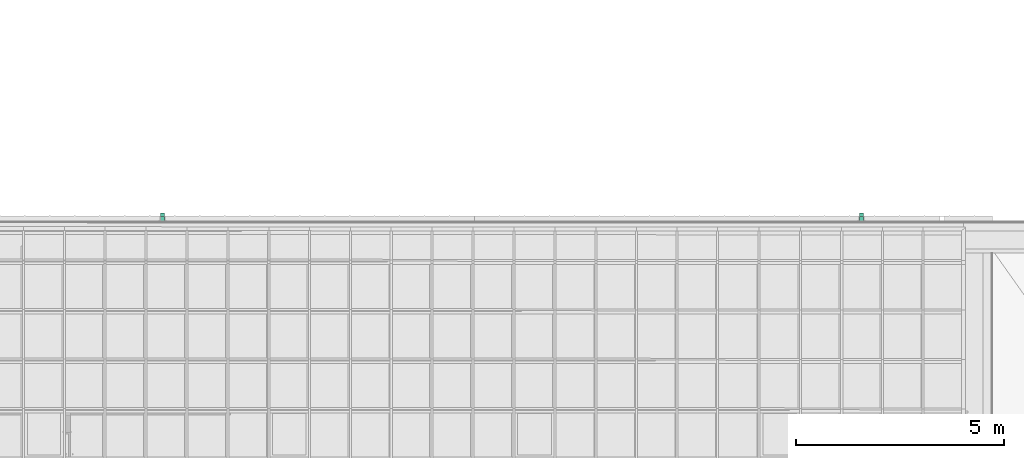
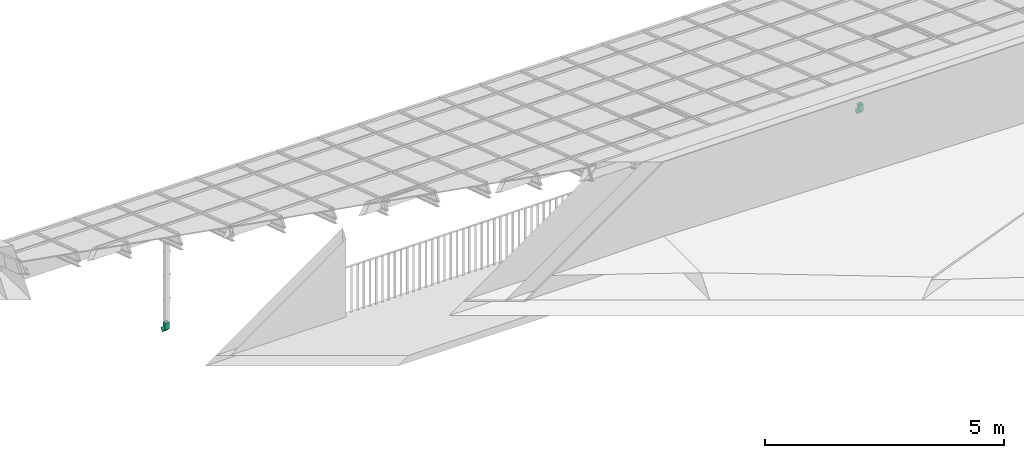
# One storey, part 25 of 47: 2 flow terminals.
"""IFC2X3 building model written with IfcOpenShell, lengths in millimetres."""

import ifcopenshell
import ifcopenshell.guid

model = None  # the IFC model being written
_history = None  # IfcOwnerHistory: only IFC2X3 demands one
_inside = {}  # id of a spatial element -> (the spatial element, [elements in it])
_under = {}  # id of a project, library or spatial element -> (it, [spatial elements below it])
_declared = {}  # id of a project -> (the project, [libraries it declares])
_typed = {}  # id of a type object -> (the type object, [elements of that type])
_made_of = {}  # id of a material, layer set ... -> (it, [elements and type objects made of it])


def new_model(schema):
    """Start an empty IFC model of exactly this schema.

    Asked for "IFC4X3", IfcOpenShell would pick the latest addendum, in which some entities
    have other attributes; the version numbers below select the first issue.
    IFC2X3 requires an IfcOwnerHistory on every rooted entity: one is made here for all.
    """
    global model, _history
    if schema == "IFC4X3":
        model = ifcopenshell.file(schema_version=(4, 3, 0, 0))
    else:
        model = ifcopenshell.file(schema=schema)
    _inside.clear()
    _under.clear()
    _declared.clear()
    _typed.clear()
    _made_of.clear()
    _history = None
    if model.schema == "IFC2X3":
        org = make("IfcOrganization", Name="unknown")
        user = make(
            "IfcPersonAndOrganization",
            ThePerson=make("IfcPerson", FamilyName="unknown"),
            TheOrganization=org,
        )
        app = make(
            "IfcApplication",
            ApplicationDeveloper=org,
            Version="unknown",
            ApplicationFullName="unknown",
            ApplicationIdentifier="unknown",
        )
        _history = make(
            "IfcOwnerHistory",
            OwningUser=user,
            OwningApplication=app,
            ChangeAction="ADDED",
            CreationDate=0,
        )
    return model


def make(cls, **values):
    """One entity of the class cls with the attributes given. An attribute that is None is left unset."""
    return model.create_entity(
        cls, **{name: value for name, value in values.items() if value is not None}
    )


def entity(cls, *values):
    """Any entity or typed value of the class cls, its attributes in the order of the schema. None: left unset."""
    e = model.create_entity(cls)
    for i, value in enumerate(values):
        if value is not None:
            e[i] = value
    return e


def rooted(cls, **values):
    """An entity with a GlobalId (a new one), such as an element, a storey or a relation."""
    return make(cls, GlobalId=ifcopenshell.guid.new(), OwnerHistory=_history, **values)


def si_unit(unit_type, name, prefix=None):
    """IfcSIUnit, for example si_unit("LENGTHUNIT", "METRE", prefix="MILLI")."""
    return make("IfcSIUnit", UnitType=unit_type, Prefix=prefix, Name=name)


def converted_unit(unit_type, name, factor, base, dimensions=None, offset=None):
    """IfcConversionBasedUnit, such as the inch: factor (a typed value) times the base unit."""
    return make(
        "IfcConversionBasedUnit"
        if offset is None
        else "IfcConversionBasedUnitWithOffset",
        ConversionOffset=offset,
        Dimensions=None
        if dimensions is None
        else entity("IfcDimensionalExponents", *dimensions),
        UnitType=unit_type,
        Name=name,
        ConversionFactor=make(
            "IfcMeasureWithUnit", ValueComponent=factor, UnitComponent=base
        ),
    )


def derived_unit(unit_type, elements):
    """IfcDerivedUnit: a product of units, each with its exponent."""
    return make(
        "IfcDerivedUnit",
        Elements=[
            make("IfcDerivedUnitElement", Unit=unit, Exponent=power)
            for unit, power in elements
        ],
        UnitType=unit_type,
    )


def money_unit(currency):
    """IfcMonetaryUnit."""
    return make("IfcMonetaryUnit", Currency=currency)


def assignment(units):
    """IfcUnitAssignment: the units of a project."""
    return None if units is None else make("IfcUnitAssignment", Units=units)


def point(xyz):
    """IfcCartesianPoint."""
    return None if xyz is None else make("IfcCartesianPoint", Coordinates=xyz)


def direction(xyz):
    """IfcDirection."""
    return None if xyz is None else make("IfcDirection", DirectionRatios=xyz)


def frame(location, z_axis=None, x_axis=None):
    """IfcAxis2Placement3D, a coordinate frame: its origin and axes. An axis left out is left unset."""
    return make(
        "IfcAxis2Placement3D",
        Location=point(location),
        Axis=direction(z_axis),
        RefDirection=direction(x_axis),
    )


def origin_with_axes():
    """The frame at (0, 0, 0) with the z axis (0, 0, 1) and the x axis (1, 0, 0) written out."""
    return frame((0.0, 0.0, 0.0), z_axis=(0.0, 0.0, 1.0), x_axis=(1.0, 0.0, 0.0))


def place(relative_to, where):
    """IfcLocalPlacement: puts the frame where relative to a parent placement (None: the world)."""
    return make(
        "IfcLocalPlacement", PlacementRelTo=relative_to, RelativePlacement=where
    )


def context(
    kind, dimensions, precision=None, world=None, true_north=None, identifier=None
):
    """IfcGeometricRepresentationContext, for example the 3D "Model" context."""
    return make(
        "IfcGeometricRepresentationContext",
        ContextIdentifier=identifier,
        ContextType=kind,
        CoordinateSpaceDimension=dimensions,
        Precision=precision,
        WorldCoordinateSystem=world,
        TrueNorth=true_north,
    )


def subcontext(parent, identifier, kind, view, scale=None):
    """IfcGeometricRepresentationSubContext, for example "Body" below "Model"."""
    return make(
        "IfcGeometricRepresentationSubContext",
        ContextIdentifier=identifier,
        ContextType=kind,
        ParentContext=parent,
        TargetScale=scale,
        TargetView=view,
    )


def project(units=None, contexts=None):
    """IfcProject with its units and contexts."""
    return rooted(
        "IfcProject",
        Name="project",
        RepresentationContexts=contexts,
        UnitsInContext=assignment(units),
    )


def spatial(cls, under=None, at=None, **own):
    """A site, building, storey or space (cls), placed at a placement, below another one or the project."""
    s = rooted(cls, ObjectPlacement=at, **own)
    if under is not None:
        _under.setdefault(under.id(), (under, []))[1].append(s)
    return s


def faces_of(points, faces, orient=None, outer=None):
    """IfcFace entities. A face is a list of loops; a loop is a list of indices into points, from 0.

    orient and outer hold one flag for each loop. By default every Orientation is true, the
    first loop of a face is its IfcFaceOuterBound and the others are IfcFaceBound.
    """
    made = []
    for i, loops in enumerate(faces):
        bounds = []
        for j, loop in enumerate(loops):
            is_outer = j == 0 if outer is None else outer[i][j]
            bounds.append(
                make(
                    "IfcFaceOuterBound" if is_outer else "IfcFaceBound",
                    Bound=make("IfcPolyLoop", Polygon=[points[k] for k in loop]),
                    Orientation=True if orient is None else orient[i][j],
                )
            )
        made.append(make("IfcFace", Bounds=bounds))
    return made


def open_shell(faces, orient=None, outer=None):
    """The faces of one IfcOpenShell. surface_model builds it on its shared points."""
    return ("IfcOpenShell", faces, orient, outer)


def surface_model(cls, points, shells):
    """IfcFaceBasedSurfaceModel or IfcShellBasedSurfaceModel (cls): surfaces that need not close."""
    shared = [point(p) for p in points]
    made = [make(c, CfsFaces=faces_of(shared, fs, o, b)) for c, fs, o, b in shells]
    if cls == "IfcFaceBasedSurfaceModel":
        return make(cls, FbsmFaces=made)
    return make(cls, SbsmBoundary=made)


def shape(context_of_items, identifier, shape_type, items):
    """IfcShapeRepresentation: the items that make up one representation, for example the "Body"."""
    return make(
        "IfcShapeRepresentation",
        ContextOfItems=context_of_items,
        RepresentationIdentifier=identifier,
        RepresentationType=shape_type,
        Items=items,
    )


def source(mapping_origin, context_of_items, identifier, shape_type, items):
    """IfcRepresentationMap: a shape defined once, which mapped items show again and again."""
    return make(
        "IfcRepresentationMap",
        MappingOrigin=mapping_origin,
        MappedRepresentation=shape(context_of_items, identifier, shape_type, items),
    )


def transform(
    local_origin,
    x_axis=None,
    y_axis=None,
    z_axis=None,
    scale=None,
    scale2=None,
    scale3=None,
    uniform=True,
):
    """IfcCartesianTransformationOperator3D, or its non-uniform kind. x_axis, y_axis, z_axis: its Axis1, 2, 3."""
    if uniform:
        return make(
            "IfcCartesianTransformationOperator3D",
            Axis1=direction(x_axis),
            Axis2=direction(y_axis),
            LocalOrigin=point(local_origin),
            Scale=scale,
            Axis3=direction(z_axis),
        )
    return make(
        "IfcCartesianTransformationOperator3DnonUniform",
        Axis1=direction(x_axis),
        Axis2=direction(y_axis),
        LocalOrigin=point(local_origin),
        Scale=scale,
        Axis3=direction(z_axis),
        Scale2=scale2,
        Scale3=scale3,
    )


def mapped(mapping_source, mapping_target):
    """IfcMappedItem: shows the shape of a source again, moved by a transform."""
    return make(
        "IfcMappedItem", MappingSource=mapping_source, MappingTarget=mapping_target
    )


def made_of(thing, what):
    """Note that an element or type object is made of a material, layer set ...; save() writes the relation."""
    if what is not None:
        _made_of.setdefault(what.id(), (what, []))[1].append(thing)
    return thing


def type_object(cls, material=None, **own):
    """A type object (cls), such as IfcWallType, which elements share."""
    return made_of(rooted(cls, **own), material)


def element(
    cls,
    number,
    at=None,
    inside=None,
    cuts=None,
    type_object=None,
    material=None,
    context=None,
    identifier="Body",
    shape_type=None,
    held_by="IfcProductDefinitionShape",
    body=None,
    shapes=None,
    **own,
):
    """One element of the class cls, such as IfcWall. Its Tag is "e" and its number.

    at: its placement. inside: the storey or other place that contains it. cuts: it is an
    opening in that element (IfcRelVoidsElement). A single representation is given by context,
    identifier, shape_type and body (its items); several are given by shapes. held_by: the class
    of the entity that holds the representations. save() writes the other relations.
    """
    e = rooted(cls, Tag="e%d" % number, ObjectPlacement=at, **own)
    if body is not None:
        shapes = [shape(context, identifier, shape_type, body)]
    if shapes is not None:
        e.Representation = make(held_by, Representations=shapes)
    if inside is not None:
        _inside.setdefault(inside.id(), (inside, []))[1].append(e)
    if cuts is not None:
        rooted(
            "IfcRelVoidsElement", RelatingBuildingElement=cuts, RelatedOpeningElement=e
        )
    if type_object is not None:
        _typed.setdefault(type_object.id(), (type_object, []))[1].append(e)
    return made_of(e, material)


def aggregate(whole, parts):
    """IfcRelAggregates: a whole, such as a stair, and the parts it consists of."""
    return rooted("IfcRelAggregates", RelatingObject=whole, RelatedObjects=parts)


def save(model, path):
    """Write the relations noted so far, then the file.

    IfcRelAggregates (storeys below a building ...), IfcRelContainedInSpatialStructure (elements
    in a storey), IfcRelDefinesByType, IfcRelAssociatesMaterial and IfcRelDeclares: one each for
    every whole, place, type object, material and project.
    """
    for whole, parts in _under.values():
        aggregate(whole, parts)
    for where, things in _inside.values():
        rooted(
            "IfcRelContainedInSpatialStructure",
            RelatedElements=things,
            RelatingStructure=where,
        )
    for kind, things in _typed.values():
        rooted("IfcRelDefinesByType", RelatedObjects=things, RelatingType=kind)
    for what, things in _made_of.values():
        rooted("IfcRelAssociatesMaterial", RelatedObjects=things, RelatingMaterial=what)
    for by, libraries in _declared.values():
        rooted("IfcRelDeclares", RelatingContext=by, RelatedDefinitions=libraries)
    model.write(path)


model = new_model("IFC2X3")

# Units and contexts
model_context = context("Model", 3, precision=1e-05, world=origin_with_axes(), true_north=direction((0.0, 1.0)))
body_context = subcontext(model_context, "Body", "Model", "MODEL_VIEW")
ifc_project = project(units=[si_unit("LENGTHUNIT", "METRE", prefix="MILLI"), si_unit("AREAUNIT", "SQUARE_METRE"), si_unit("VOLUMEUNIT", "CUBIC_METRE"), converted_unit("PLANEANGLEUNIT", "DEGREE", entity("IfcPlaneAngleMeasure", 0.0174532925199), si_unit("PLANEANGLEUNIT", "RADIAN"), dimensions=[0, 0, 0, 0, 0, 0, 0]), si_unit("SOLIDANGLEUNIT", "STERADIAN"), money_unit("EUR"), converted_unit("TIMEUNIT", "Year", entity("IfcTimeMeasure", 31556926.0), si_unit("TIMEUNIT", "SECOND"), dimensions=[0, 0, 1, 0, 0, 0, 0]), si_unit("MASSUNIT", "GRAM", prefix="KILO"), si_unit("THERMODYNAMICTEMPERATUREUNIT", "DEGREE_CELSIUS"), si_unit("LUMINOUSINTENSITYUNIT", "LUMEN"), si_unit("ENERGYUNIT", "JOULE", prefix="MEGA"), derived_unit("THERMALCONDUCTANCEUNIT", [(si_unit("POWERUNIT", "WATT"), 1), (si_unit("LENGTHUNIT", "METRE"), -1), (si_unit("THERMODYNAMICTEMPERATUREUNIT", "KELVIN"), -1)]), derived_unit("SPECIFICHEATCAPACITYUNIT", [(si_unit("ENERGYUNIT", "JOULE"), 1), (si_unit("MASSUNIT", "GRAM", prefix="KILO"), -1), (si_unit("THERMODYNAMICTEMPERATUREUNIT", "KELVIN"), -1)]), derived_unit("MASSDENSITYUNIT", [(si_unit("MASSUNIT", "GRAM", prefix="KILO"), 1), (si_unit("VOLUMEUNIT", "CUBIC_METRE"), -1)])], contexts=[model_context])

# Site, building, storey
site_placement = place(None, origin_with_axes())
site = spatial("IfcSite", under=ifc_project, at=site_placement, Name="Site", CompositionType="ELEMENT")
building_placement = place(site_placement, origin_with_axes())
building = spatial("IfcBuilding", under=site, at=building_placement, Name="Building", CompositionType="ELEMENT")
storey_placement = place(building_placement, frame((0.0, 0.0, 6000.0), z_axis=(0.0, 0.0, 1.0), x_axis=(1.0, 0.0, 0.0)))
storey = spatial("IfcBuildingStorey", under=building, at=storey_placement, Name="KATUSEPLAAN", CompositionType="ELEMENT", Elevation=6000.0)

# Flow terminals
waste_terminal_type = type_object("IfcWasteTerminalType", Name="Downspout Elbow 22", PredefinedType="NOTDEFINED")
shared_shape = source(origin_with_axes(), body_context, "Body", "SurfaceModel", [
    surface_model("IfcShellBasedSurfaceModel", [(-50.0, 50.0, 291.35533906), (-50.0, 50.0, 120.644660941), (-50.0, -70.644660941, 0.0), (-50.0, -141.35533906, 70.7106781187), (-50.0, -50.0, 162.066017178), (-50.0, -50.0, 291.35533906), (50.0, 50.0, 291.35533906), (50.0, 50.0, 120.644660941), (50.0, -70.644660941, 0.0), (50.0, -141.35533906, 70.7106781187), (50.0, -50.0, 162.066017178), (50.0, -50.0, 291.35533906)], [open_shell([[[0, 1, 2, 3, 4, 5]], [[6, 7, 1, 0]], [[7, 8, 2, 1]], [[4, 3, 9, 10]], [[5, 4, 10, 11]], [[11, 10, 9, 8, 7, 6]]])]),
])
for number, where, z_axis, x_axis in (
    (1, (68599.8373121, 47597.8063405, -3130.46505322), (0.0, 0.0, 1.0), (-1.0, 0.0, 0.0)),
    (2, (85374.7823521, 47597.3969931, -3430.47047579), (0.0, 0.0, 1.0), (-1.0, 0.0, 0.0)),
):
    element("IfcFlowTerminal", number, at=place(storey_placement, frame(where, z_axis=z_axis, x_axis=x_axis)), inside=storey, type_object=waste_terminal_type, Name="Vihmaveerennid", context=body_context, shape_type="MappedRepresentation", body=[
        mapped(shared_shape, transform((0.0, 0.0, 0.0))),
    ])

save(model, "model.ifc")
